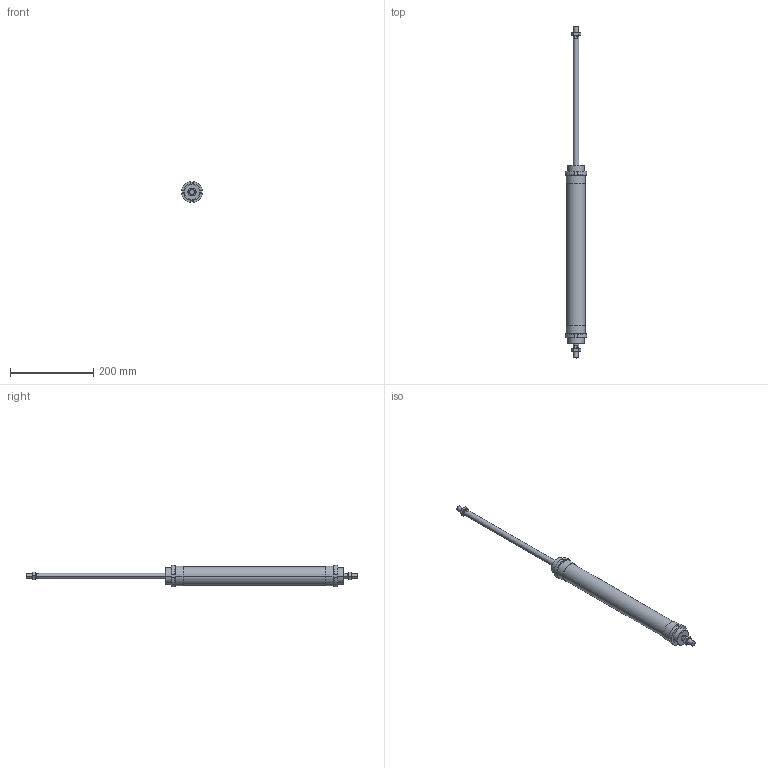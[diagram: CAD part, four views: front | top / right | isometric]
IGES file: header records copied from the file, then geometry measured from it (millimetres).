
Global section: file name: No Iges File Name specified; native system: AutoDesk Inventor R6.0; preprocessor: AutoDesk Inventor Iges Exporter R6.0; author: No Author specified; organization: No Organization specified; date: 20030403.072853; units: millimetre
Bounding box: 51.76 x 799 x 51.76 mm (x, y, z)
Volume: 719895.7 mm3; surface area: 128570.6 mm2
Topology: 6 solids, 6 shells, 182 faces, 424 edges, 264 vertices
Faces by surface type: plane 66, cone 52, bspline 30, cylinder 28, revolution 6
